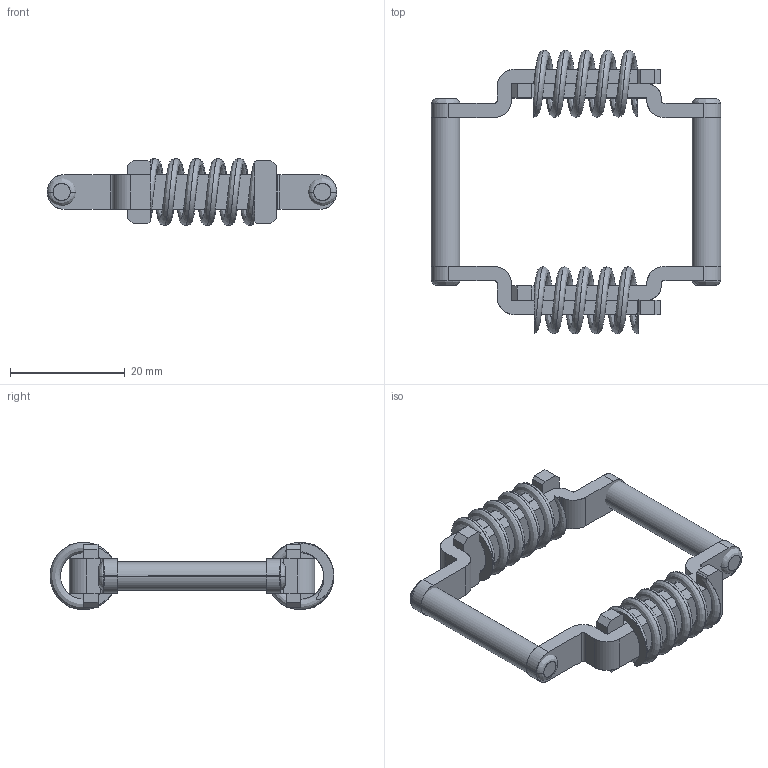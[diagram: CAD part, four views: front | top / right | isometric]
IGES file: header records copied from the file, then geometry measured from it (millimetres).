
Start section: SolidWorks IGES FILE using analytic representation for surfaces
Global section: file name: C:\Documents and Settings\lecoutey\Bureau\GP 30\Assemblage ressort 30.IGS; native system: SolidWorks 2004 by SolidWorks Corporation; preprocessor: Version 5.3; author: lecoutey; date: 050329.142859; units: millimetre
Bounding box: 50.5 x 49.5 x 11.7 mm (x, y, z)
Surface area: 6095.4 mm2 (no closed solid volume)
Topology: 0 solids, 0 shells, 128 faces, 1604 edges, 1604 vertices
Faces by surface type: bspline 94, revolution 34
